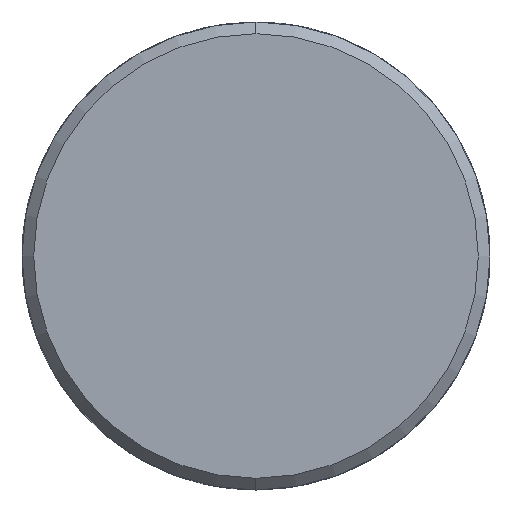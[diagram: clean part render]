
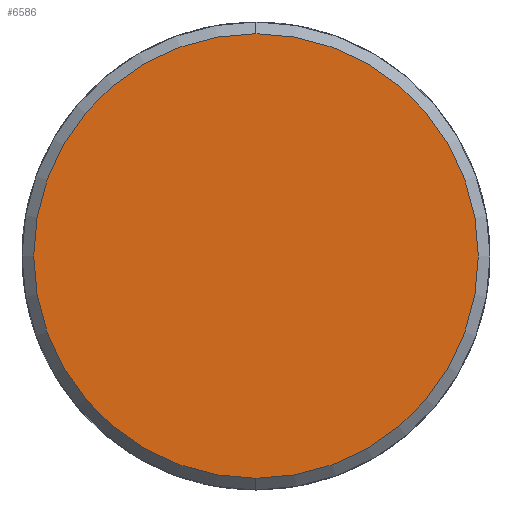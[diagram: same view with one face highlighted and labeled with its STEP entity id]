
A CAD part, left-side view. The second image highlights one B-rep face of the part: STEP entity #6586.
In plain terms, the highlighted planar face has unit normal (-1, 0, 0).
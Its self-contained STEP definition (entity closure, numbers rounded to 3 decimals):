
#226 = VERTEX_POINT ( 'NONE', #5521 ) ;
#465 = AXIS2_PLACEMENT_3D ( 'NONE', #4985, #4958, #4938 ) ;
#542 = CARTESIAN_POINT ( 'NONE',  ( 0., 0., 0. ) ) ;
#554 = DIRECTION ( 'NONE',  ( 1., 0., 0. ) ) ;
#577 = DIRECTION ( 'NONE',  ( 0., 0., -1. ) ) ;
#1582 = EDGE_CURVE ( 'NONE', #226, #2203, #7501, .T. ) ;
#2203 = VERTEX_POINT ( 'NONE', #3965 ) ;
#3873 = EDGE_CURVE ( 'NONE', #2203, #226, #7998, .T. ) ;
#3965 = CARTESIAN_POINT ( 'NONE',  ( 0., 0., 9.5 ) ) ;
#4170 = EDGE_LOOP ( 'NONE', ( #8669, #7616 ) ) ;
#4296 = CARTESIAN_POINT ( 'NONE',  ( 0., 0., 0. ) ) ;
#4938 = DIRECTION ( 'NONE',  ( 0., 0., -1. ) ) ;
#4958 = DIRECTION ( 'NONE',  ( 1., 0., 0. ) ) ;
#4985 = CARTESIAN_POINT ( 'NONE',  ( 0., 0., 0. ) ) ;
#4986 = PLANE ( 'NONE',  #6622 ) ;
#5086 = DIRECTION ( 'NONE',  ( 0., 0., 1. ) ) ;
#5521 = CARTESIAN_POINT ( 'NONE',  ( 0., 0., -9.5 ) ) ;
#6586 = ADVANCED_FACE ( 'NONE', ( #7055 ), #4986, .T. ) ;
#6622 = AXIS2_PLACEMENT_3D ( 'NONE', #4296, #9646, #5086 ) ;
#7055 = FACE_OUTER_BOUND ( 'NONE', #4170, .T. ) ;
#7501 = CIRCLE ( 'NONE', #8424, 9.5 ) ;
#7616 = ORIENTED_EDGE ( 'NONE', *, *, #3873, .F. ) ;
#7998 = CIRCLE ( 'NONE', #465, 9.5 ) ;
#8424 = AXIS2_PLACEMENT_3D ( 'NONE', #542, #554, #577 ) ;
#8669 = ORIENTED_EDGE ( 'NONE', *, *, #1582, .F. ) ;
#9646 = DIRECTION ( 'NONE',  ( -1., 0., 0. ) ) ;
